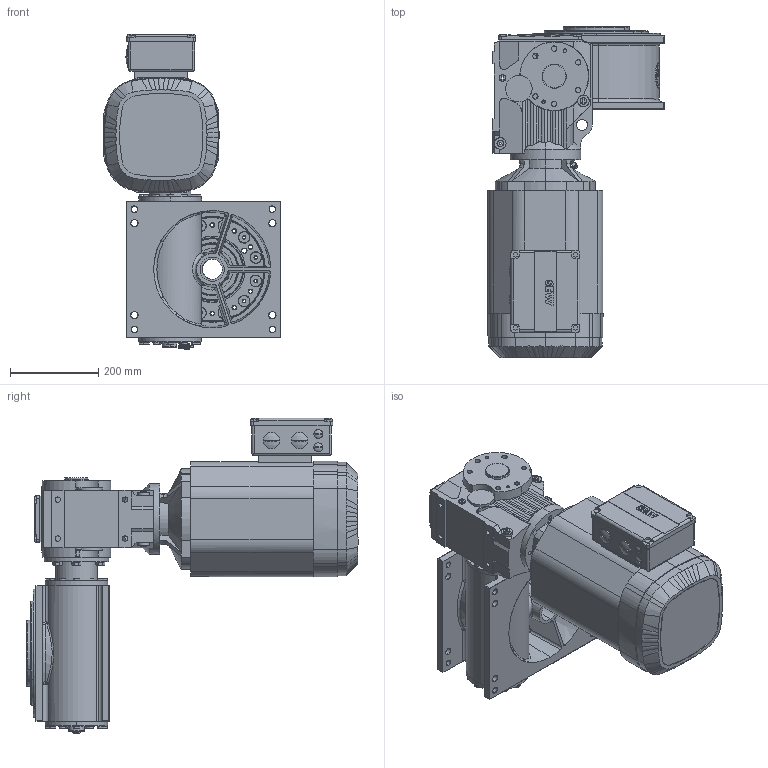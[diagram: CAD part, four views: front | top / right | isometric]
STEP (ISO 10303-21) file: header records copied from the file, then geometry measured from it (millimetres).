
FILE_DESCRIPTION (( 'STEP AP214' ), '1' );
FILE_NAME ('M235_SEW_KA67DRN132M4_D2_12.STEP', '2020-06-17T05:44:12', ( '' ), ( '' ), 'SwSTEP 2.0', 'SolidWorks 2020', '' );
FILE_SCHEMA (( 'AUTOMOTIVE_DESIGN' ));
Length unit declared in the file: millimetre
Products named in the file (1): M235_SEW_KA67DRN132M4_D2_12
Bounding box: 399.44 x 751 x 713.5 mm (x, y, z)
Surface area: 1620368.8 mm2 (no closed solid volume)
Topology: 0 solids, 108 shells, 1746 faces, 5490 edges, 3713 vertices
Faces by surface type: plane 692, cylinder 606, cone 295, bspline 100, torus 29, sphere 24
Entity records: 93173 total; most frequent: CARTESIAN_POINT 26950, DIRECTION 9715, ORIENTED_EDGE 9117, EDGE_CURVE 5474, VERTEX_POINT 3713, AXIS2_PLACEMENT_3D 3613, LINE 2489, VECTOR 2489
